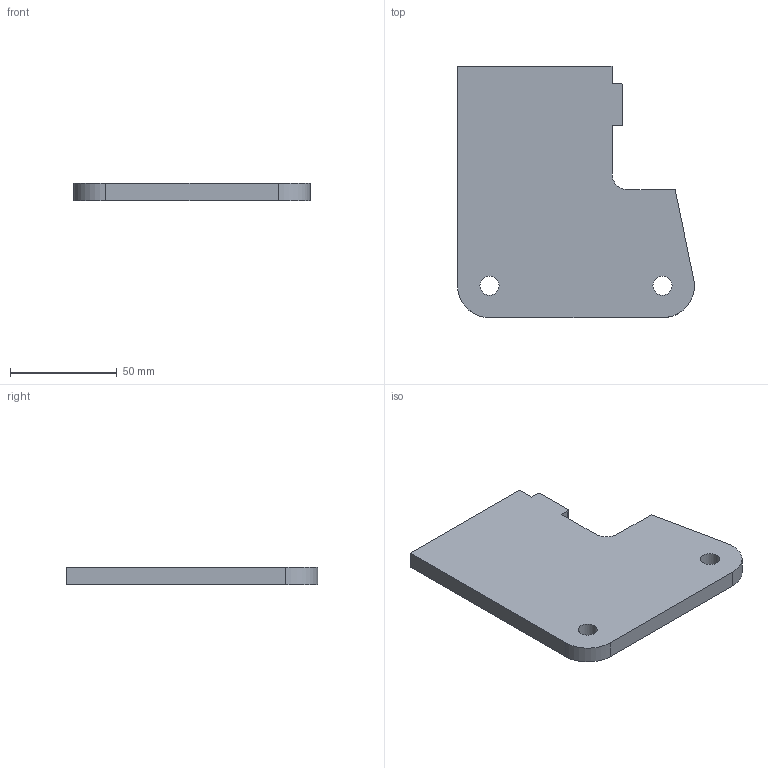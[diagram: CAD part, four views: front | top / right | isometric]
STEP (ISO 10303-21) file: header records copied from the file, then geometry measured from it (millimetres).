
FILE_DESCRIPTION(/* description */ (''),/* implementation_level */ '2;1');
FILE_NAME(/* name */ 'Pos153-Plaatwerk D= 8-S235JRG2-3st',/* time_stamp */ '2024-08-06T13:37:45+02:00',/* author */ (''),/* organization */ (''),/* preprocessor_version */ 'ST-DEVELOPER v16.5',/* originating_system */ 'HiCAD 2024 2901.2 Build 361',/* authorisation */ '');
FILE_SCHEMA (('AUTOMOTIVE_DESIGN { 1 0 10303 214 1 1 1 1 }'));
Length unit declared in the file: millimetre
Products named in the file (1): Pos153-Plaatwerk D= 8-S235JRG2-3st
Bounding box: 111.2 x 118 x 8 mm (x, y, z)
Volume: 84541.3 mm3; surface area: 25134.1 mm2
Topology: 1 solids, 1 shells, 19 faces, 53 edges, 36 vertices
Faces by surface type: plane 12, cylinder 7
Full cylindrical faces by diameter (mm): 9 x2
Entity records: 1105 total; most frequent: CARTESIAN_POINT 102, DIRECTION 101, PRESENTATION_STYLE_ASSIGNMENT 99, COLOUR_RGB 99, DRAUGHTING_PRE_DEFINED_CURVE_FONT 98, CURVE_STYLE 98, OVER_RIDING_STYLED_ITEM 98, ORIENTED_EDGE 98
